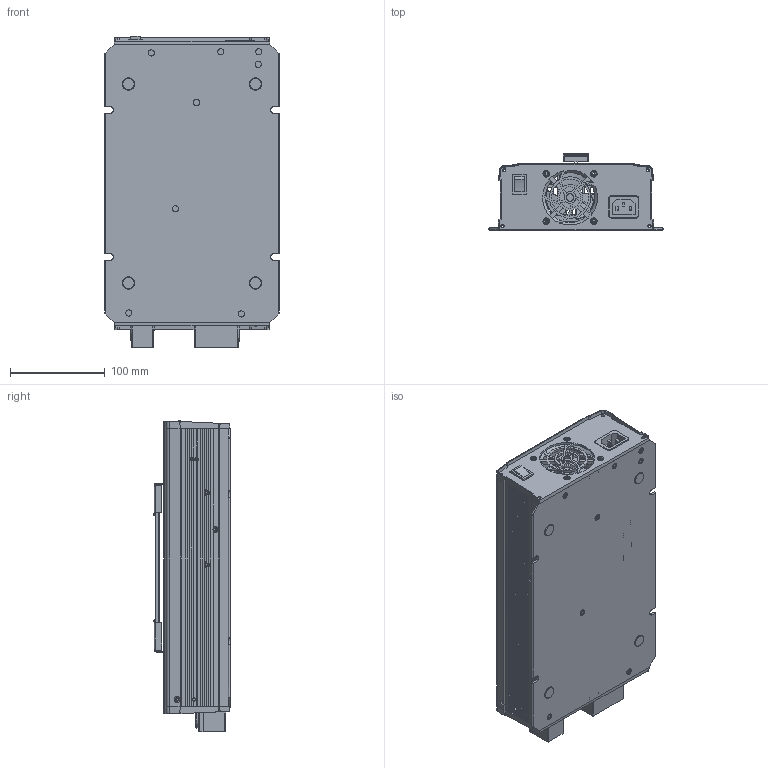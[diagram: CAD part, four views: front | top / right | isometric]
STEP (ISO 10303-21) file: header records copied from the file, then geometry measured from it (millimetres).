
FILE_DESCRIPTION(('Creo Elements/Direct Modeling STEP Export'),'2;1');
FILE_NAME('NPB-1700.stp','2022-03-22T 9:47:30',(''),(''),'PTC Creo Elements/Direct Modeling STEP processor for AP214 (Solid Model)','PTC Creo Elements/Direct Modeling 19.0E 27-Jun-2016 (C) Parametric Technology GmbH','');
FILE_SCHEMA(('AUTOMOTIVE_DESIGN { 1 0 10303 214 1 1 1 1 }'));
Length unit declared in the file: millimetre
Products named in the file (165): p1; USER_LIBRARY-KBJ-GSIB_PRT_49_2; USER_LIBRARY-KBJ-GSIB_PRT_49_2_; TOP_COVER_PRT; PIN_1_2_1_1_12_PRT; PCBG; PCBF; PCBE; PCBD; PCBC; PCBB; PCBA; PCB-C_PRT_4_2; PANEL_3-拔模20210803; PANEL_1-拔模20210803; PAD_0122_PRT; PAD-8_PRT; PAD-6_PRT; PAD-5_PRT; PAD-4_PRT; PAD-3_PRT_4; PAD-3_PRT; PAD-2_PRT; PAD-1_PRT; PAD-11; P1_12_PRT; P1-60070_1_PRT_2_PRT; MYLAR-2; MYLAR-1_PRT; MYLAR-1; MOS_TO247; MOS_TO247.3; MOS_TO247.2; MOS_TO247.1; M3-6_5L; M3-7L_1_1_2_1_PRT_PRT_4; M3-7L_1_1_2_1_PRT_PRT; M3-6_5L.5; M3-6_5L.4; M3-6_5L.3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
Assembly tree (87 placements, depth 2):
  p1
    p1
  USER_LIBRARY-KBJ-GSIB_PRT_49_2_
    USER_LIBRARY-KBJ-GSIB_PRT_49_2
  USER_LIBRARY-KBJ-GSIB_PRT_49_2
    USER_LIBRARY-KBJ-GSIB_PRT_49_2
  TOP_COVER_PRT
    TOP_COVER_PRT
  PIN_1_2_1_1_12_PRT
    PIN_1_2_1_1_12_PRT
Bounding box: 184 x 81.65 x 327.84 mm (x, y, z)
Volume: 715383.6 mm3; surface area: 784792 mm2
Topology: 96 solids, 96 shells, 4459 faces, 12166 edges, 7846 vertices
Faces by surface type: plane 2478, cylinder 1130, cone 418, sphere 190, torus 124, bspline 66, extrusion 53
Entity records: 130681 total; most frequent: CARTESIAN_POINT 30081, ORIENTED_EDGE 20868, DIRECTION 19238, EDGE_CURVE 10425, VECTOR 7058, LINE 7031, VERTEX_POINT 6834, AXIS2_PLACEMENT_3D 6090
